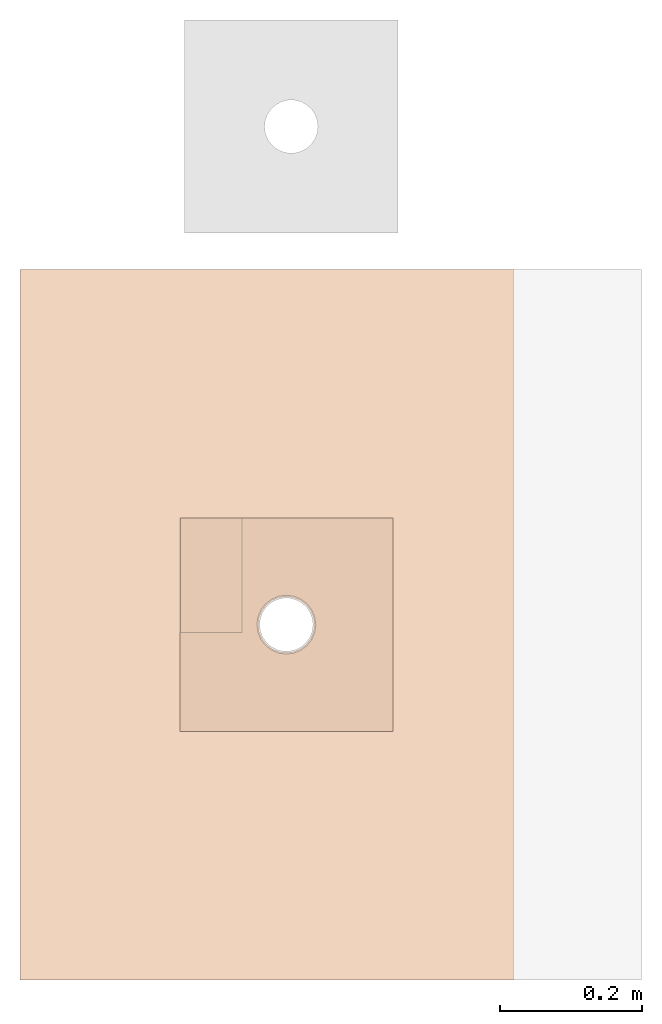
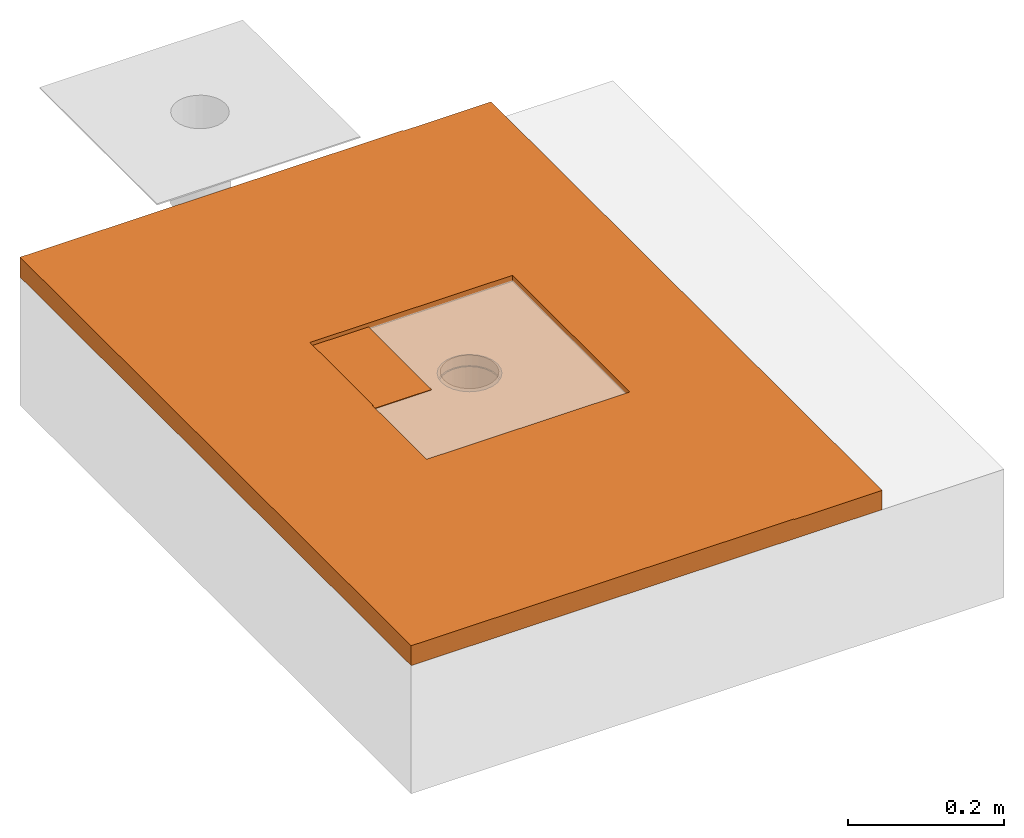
# One storey, part 3 of 3: 1 proxy.
"""IFC2X3 building model written with IfcOpenShell, lengths in metres."""

from ifc_helpers import new_model, entity, si_unit, converted_unit, derived_unit, direction, frame, origin, place, context, subcontext, project, spatial, faceted_brep, source, transform, mapped, material, material_list, type_object, type_shapes, element, save


model = new_model("IFC2X3")

# Units and contexts
model_context = context("Model", 3, precision=1e-05, world=origin(), true_north=direction((6.123031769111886e-17, 1.0)))
body_context = subcontext(model_context, "Body", "Model", "MODEL_VIEW")
ifc_project = project(units=[si_unit("LENGTHUNIT", "METRE"), si_unit("AREAUNIT", "SQUARE_METRE"), si_unit("VOLUMEUNIT", "CUBIC_METRE"), converted_unit("PLANEANGLEUNIT", "DEGREE", entity("IfcRatioMeasure", 0.017453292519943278), si_unit("PLANEANGLEUNIT", "RADIAN"), dimensions=[0, 0, 0, 0, 0, 0, 0]), si_unit("MASSUNIT", "GRAM", prefix="KILO"), derived_unit("MASSDENSITYUNIT", [(si_unit("MASSUNIT", "GRAM", prefix="KILO"), 1), (si_unit("LENGTHUNIT", "METRE"), -3)]), derived_unit("IONCONCENTRATIONUNIT", [(si_unit("MASSUNIT", "GRAM", prefix="KILO"), 1), (si_unit("LENGTHUNIT", "METRE"), -3)]), derived_unit("MOMENTOFINERTIAUNIT", [(si_unit("LENGTHUNIT", "METRE"), 4)]), si_unit("TIMEUNIT", "SECOND"), si_unit("FREQUENCYUNIT", "HERTZ"), si_unit("THERMODYNAMICTEMPERATUREUNIT", "DEGREE_CELSIUS"), derived_unit("THERMALTRANSMITTANCEUNIT", [(si_unit("MASSUNIT", "GRAM", prefix="KILO"), 1), (si_unit("THERMODYNAMICTEMPERATUREUNIT", "KELVIN"), -1), (si_unit("TIMEUNIT", "SECOND"), -3)]), derived_unit("THERMALCONDUCTANCEUNIT", [(si_unit("MASSUNIT", "GRAM", prefix="KILO"), 1), (si_unit("THERMODYNAMICTEMPERATUREUNIT", "KELVIN"), -1), (si_unit("TIMEUNIT", "SECOND"), -3), (si_unit("LENGTHUNIT", "METRE"), 1)]), derived_unit("VOLUMETRICFLOWRATEUNIT", [(si_unit("LENGTHUNIT", "METRE"), 3), (si_unit("TIMEUNIT", "SECOND"), -1)]), derived_unit("MASSFLOWRATEUNIT", [(si_unit("MASSUNIT", "GRAM", prefix="KILO"), 1), (si_unit("TIMEUNIT", "SECOND"), -1)]), derived_unit("ROTATIONALFREQUENCYUNIT", [(si_unit("TIMEUNIT", "SECOND"), -1)]), si_unit("ELECTRICCURRENTUNIT", "AMPERE"), si_unit("ELECTRICVOLTAGEUNIT", "VOLT"), si_unit("POWERUNIT", "WATT"), si_unit("FORCEUNIT", "NEWTON", prefix="KILO"), si_unit("ILLUMINANCEUNIT", "LUX"), si_unit("LUMINOUSFLUXUNIT", "LUMEN"), si_unit("LUMINOUSINTENSITYUNIT", "CANDELA"), derived_unit("USERDEFINED", [(si_unit("MASSUNIT", "GRAM", prefix="KILO"), -1), (si_unit("LENGTHUNIT", "METRE"), -2), (si_unit("TIMEUNIT", "SECOND"), 3), (si_unit("LUMINOUSFLUXUNIT", "LUMEN"), 1)]), derived_unit("USERDEFINED", [(si_unit("MASSUNIT", "GRAM", prefix="KILO"), 1), (si_unit("TIMEUNIT", "SECOND"), -3), (si_unit("LENGTHUNIT", "METRE"), 3), (si_unit("ELECTRICCURRENTUNIT", "AMPERE"), -2)]), derived_unit("SOUNDPOWERUNIT", [(si_unit("MASSUNIT", "GRAM", prefix="KILO"), 1), (si_unit("TIMEUNIT", "SECOND"), -3), (si_unit("LENGTHUNIT", "METRE"), 2)]), derived_unit("SOUNDPRESSUREUNIT", [(si_unit("MASSUNIT", "GRAM", prefix="KILO"), 1), (si_unit("LENGTHUNIT", "METRE"), -1), (si_unit("TIMEUNIT", "SECOND"), -2)]), derived_unit("LINEARVELOCITYUNIT", [(si_unit("LENGTHUNIT", "METRE"), 1), (si_unit("TIMEUNIT", "SECOND"), -1)]), si_unit("PRESSUREUNIT", "PASCAL"), derived_unit("USERDEFINED", [(si_unit("MASSUNIT", "GRAM", prefix="KILO"), 1), (si_unit("LENGTHUNIT", "METRE"), -2), (si_unit("TIMEUNIT", "SECOND"), -2)]), derived_unit("LINEARFORCEUNIT", [(si_unit("MASSUNIT", "GRAM", prefix="KILO"), 1), (si_unit("TIMEUNIT", "SECOND"), -2)]), derived_unit("PLANARFORCEUNIT", [(si_unit("MASSUNIT", "GRAM", prefix="KILO"), 1), (si_unit("LENGTHUNIT", "METRE"), -1), (si_unit("TIMEUNIT", "SECOND"), -2)]), derived_unit("SPECIFICHEATCAPACITYUNIT", [(si_unit("THERMODYNAMICTEMPERATUREUNIT", "KELVIN"), -1), (si_unit("LENGTHUNIT", "METRE"), 2), (si_unit("TIMEUNIT", "SECOND"), -2)]), derived_unit("HEATINGVALUEUNIT", [(si_unit("LENGTHUNIT", "METRE"), 2), (si_unit("TIMEUNIT", "SECOND"), -2)]), derived_unit("VAPORPERMEABILITYUNIT", [(si_unit("LENGTHUNIT", "METRE"), -1), (si_unit("TIMEUNIT", "SECOND"), 1)]), derived_unit("DYNAMICVISCOSITYUNIT", [(si_unit("MASSUNIT", "GRAM", prefix="KILO"), 1), (si_unit("TIMEUNIT", "SECOND"), -1), (si_unit("LENGTHUNIT", "METRE"), -1)]), derived_unit("THERMALEXPANSIONCOEFFICIENTUNIT", [(si_unit("THERMODYNAMICTEMPERATUREUNIT", "KELVIN"), -1)]), derived_unit("MODULUSOFELASTICITYUNIT", [(si_unit("MASSUNIT", "GRAM", prefix="KILO"), 1), (si_unit("LENGTHUNIT", "METRE"), -1), (si_unit("TIMEUNIT", "SECOND"), -2)]), derived_unit("ISOTHERMALMOISTURECAPACITYUNIT", [(si_unit("LENGTHUNIT", "METRE"), 3), (si_unit("MASSUNIT", "GRAM", prefix="KILO"), -1)]), derived_unit("MOISTUREDIFFUSIVITYUNIT", [(si_unit("TIMEUNIT", "SECOND"), -1), (si_unit("LENGTHUNIT", "METRE"), 2)])], contexts=[model_context])

# Site, building, storey
site_placement = place(None, origin())
site = spatial("IfcSite", under=ifc_project, at=site_placement, Name="Default", CompositionType="ELEMENT")
building_placement = place(site_placement, origin())
building = spatial("IfcBuilding", under=site, at=building_placement, CompositionType="ELEMENT")
storey_placement = place(building_placement, frame((0.0, 0.0, -0.0025237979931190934)))
storey = spatial("IfcBuildingStorey", under=building, at=storey_placement, Name="ARQ Térreo", CompositionType="ELEMENT", Elevation=-0.0025237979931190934)

# Proxy
ifc_material_1 = material(Name="#Impermeabilização")
ifc_material_2 = material(Name="Plástico")
ifc_material_3 = material(Name="#argamassa")
ifc_material_list = material_list([ifc_material_1, ifc_material_2, ifc_material_3])
building_element_proxy_type = type_object("IfcBuildingElementProxyType", Name="IMPER:IMPER", PredefinedType="NOTDEFINED", material=ifc_material_list)
shared_shape = source(origin(), body_context, "Body", "Brep", [
    faceted_brep([(0.2258540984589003, 0.48897795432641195, 0.3694349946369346), (0.22485409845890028, 0.48897795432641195, 0.3694349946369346), (0.22485409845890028, 0.48897795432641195, 0.3624128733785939), (0.31235992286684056, 0.48897795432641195, 0.3624128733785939), (0.31235992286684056, 0.48897795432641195, 0.36341287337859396), (0.2258540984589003, 0.48897795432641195, 0.36341287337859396), (0.2258540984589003, 0.6500658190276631, 0.3694349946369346), (0.2258540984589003, 0.6500658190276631, 0.36341287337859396), (0.31235992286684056, 0.6500658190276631, 0.36341287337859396), (0.31235992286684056, 0.6500658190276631, 0.3624128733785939), (0.22485409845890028, 0.6500658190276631, 0.3624128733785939), (0.22485409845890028, 0.6500658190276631, 0.3694349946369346)], [[[0, 1, 2, 3, 4, 5]], [[6, 7, 8, 9, 10, 11]], [[1, 0, 6, 11]], [[2, 1, 11, 10]], [[3, 2, 10, 9]], [[4, 3, 9, 8]], [[5, 4, 8, 7]], [[0, 5, 7, 6]]]),
    faceted_brep([(0.35410409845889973, 0.5360058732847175, 0.34300510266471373), (0.3455091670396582, 0.529410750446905, 0.34300510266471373), (0.3551040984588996, 0.5342738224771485, 0.34300510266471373), (0.36463074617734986, 0.5382198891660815, 0.34300510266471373), (0.36411310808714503, 0.5401517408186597, 0.34300510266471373), (0.34692338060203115, 0.5279965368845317, 0.34300510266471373), (0.3389140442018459, 0.5208158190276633, 0.34300510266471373), (0.3406460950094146, 0.519815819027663, 0.34300510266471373), (0.33670002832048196, 0.5102891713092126, 0.34300510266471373), (0.3347681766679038, 0.5108068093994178, 0.34300510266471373), (0.33535409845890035, 0.5000658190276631, 0.34300510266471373), (0.33335409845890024, 0.5000658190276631, 0.34300510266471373), (0.33670002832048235, 0.48984246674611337, 0.34300510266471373), (0.3347681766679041, 0.4893248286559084, 0.34300510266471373), (0.3406460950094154, 0.48031581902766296, 0.34300510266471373), (0.33891404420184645, 0.47931581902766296, 0.34300510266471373), (0.34692338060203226, 0.4721351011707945, 0.34300510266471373), (0.34550916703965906, 0.47072088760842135, 0.34300510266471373), (0.3551040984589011, 0.46585781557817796, 0.34300510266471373), (0.35410409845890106, 0.464125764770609, 0.34300510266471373), (0.36463074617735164, 0.461911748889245, 0.34300510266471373), (0.36411310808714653, 0.45997989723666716, 0.34300510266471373), (0.3748540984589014, 0.4605658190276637, 0.34300510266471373), (0.3748540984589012, 0.4585658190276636, 0.34300510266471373), (0.38507745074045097, 0.46191174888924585, 0.34300510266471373), (0.38559508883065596, 0.4599798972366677, 0.34300510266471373), (0.3946040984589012, 0.46585781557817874, 0.34300510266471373), (0.39560409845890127, 0.46412576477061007, 0.34300510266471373), (0.40278481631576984, 0.4721351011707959, 0.34300510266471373), (0.4041990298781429, 0.4707208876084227, 0.34300510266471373), (0.40906210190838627, 0.4803158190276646, 0.34300510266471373), (0.4107941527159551, 0.47931581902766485, 0.34300510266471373), (0.4149400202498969, 0.48932482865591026, 0.34300510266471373), (0.41300816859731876, 0.48984246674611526, 0.34300510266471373), (0.4163540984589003, 0.500065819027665, 0.34300510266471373), (0.41435409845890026, 0.500065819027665, 0.34300510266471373), (0.41494002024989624, 0.5108068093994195, 0.34300510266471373), (0.4130081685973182, 0.5102891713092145, 0.34300510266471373), (0.4107941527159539, 0.5208158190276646, 0.34300510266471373), (0.40906210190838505, 0.5198158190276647, 0.34300510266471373), (0.40419902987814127, 0.5294107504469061, 0.34300510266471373), (0.40278481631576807, 0.5279965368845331, 0.34300510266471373), (0.3956040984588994, 0.5360058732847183, 0.34300510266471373), (0.3946040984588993, 0.5342738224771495, 0.34300510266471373), (0.3855950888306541, 0.5401517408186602, 0.34300510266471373), (0.3850774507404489, 0.5382198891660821, 0.34300510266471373), (0.3748540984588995, 0.5415658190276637, 0.34300510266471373), (0.37485409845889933, 0.5395658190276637, 0.34300510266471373), (0.35410409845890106, 0.464125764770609, 0.0), (0.34550916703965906, 0.47072088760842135, 0.0), (0.3551040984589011, 0.46585781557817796, 0.0), (0.36463074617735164, 0.461911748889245, 0.0), (0.36411310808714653, 0.45997989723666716, 0.0), (0.34692338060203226, 0.4721351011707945, 0.0), (0.33891404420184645, 0.47931581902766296, 0.0), (0.3406460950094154, 0.48031581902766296, 0.0), (0.33670002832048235, 0.48984246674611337, 0.0), (0.3347681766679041, 0.4893248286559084, 0.0), (0.33535409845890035, 0.5000658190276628, 0.0), (0.33335409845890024, 0.5000658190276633, 0.0), (0.33670002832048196, 0.5102891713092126, 0.0), (0.3347681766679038, 0.5108068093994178, 0.0), (0.3406460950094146, 0.519815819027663, 0.0), (0.3389140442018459, 0.5208158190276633, 0.0), (0.34692338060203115, 0.5279965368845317, 0.0), (0.3455091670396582, 0.529410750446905, 0.0), (0.3551040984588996, 0.5342738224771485, 0.0), (0.35410409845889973, 0.5360058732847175, 0.0), (0.36463074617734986, 0.5382198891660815, 0.0), (0.36411310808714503, 0.5401517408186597, 0.0), (0.37485409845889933, 0.5395658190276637, 0.0), (0.3748540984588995, 0.5415658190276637, 0.0), (0.3850774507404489, 0.5382198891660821, 0.0), (0.3855950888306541, 0.5401517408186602, 0.0), (0.3946040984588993, 0.5342738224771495, 0.0), (0.3956040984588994, 0.5360058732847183, 0.0), (0.40278481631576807, 0.5279965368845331, 0.0), (0.40419902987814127, 0.5294107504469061, 0.0), (0.40906210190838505, 0.5198158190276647, 0.0), (0.4107941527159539, 0.5208158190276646, 0.0), (0.41494002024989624, 0.5108068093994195, 0.0), (0.4130081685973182, 0.5102891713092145, 0.0), (0.4163540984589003, 0.500065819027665, 0.0), (0.41435409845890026, 0.500065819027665, 0.0), (0.4149400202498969, 0.48932482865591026, 0.0), (0.41300816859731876, 0.48984246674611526, 0.0), (0.4107941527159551, 0.47931581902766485, 0.0), (0.40906210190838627, 0.4803158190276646, 0.0), (0.4041990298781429, 0.4707208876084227, 0.0), (0.40278481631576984, 0.4721351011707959, 0.0), (0.39560409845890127, 0.46412576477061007, 0.0), (0.3946040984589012, 0.46585781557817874, 0.0), (0.38559508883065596, 0.4599798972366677, 0.0), (0.38507745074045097, 0.46191174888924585, 0.0), (0.3748540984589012, 0.4585658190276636, 0.0), (0.3748540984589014, 0.4605658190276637, 0.0)], [[[0, 1, 2]], [[0, 2, 3]], [[3, 4, 0]], [[2, 1, 5]], [[6, 5, 1]], [[5, 6, 7]], [[7, 6, 8]], [[9, 8, 6]], [[9, 10, 8]], [[10, 9, 11]], [[12, 10, 11]], [[11, 13, 12]], [[12, 13, 14]], [[15, 14, 13]], [[14, 15, 16]], [[16, 15, 17]], [[18, 16, 17]], [[17, 19, 18]], [[18, 19, 20]], [[21, 20, 19]], [[20, 21, 22]], [[22, 21, 23]], [[22, 23, 24]], [[24, 23, 25]], [[24, 25, 26]], [[27, 26, 25]], [[28, 26, 27]], [[28, 27, 29]], [[29, 30, 28]], [[31, 30, 29]], [[30, 31, 32]], [[32, 33, 30]], [[34, 33, 32]], [[34, 35, 33]], [[36, 35, 34]], [[36, 37, 35]], [[37, 36, 38]], [[38, 39, 37]], [[39, 38, 40]], [[39, 40, 41]], [[40, 42, 41]], [[43, 41, 42]], [[43, 42, 44]], [[44, 45, 43]], [[46, 45, 44]], [[4, 47, 46]], [[46, 47, 45]], [[4, 3, 47]], [[48, 49, 50]], [[48, 50, 51]], [[51, 52, 48]], [[50, 49, 53]], [[54, 53, 49]], [[53, 54, 55]], [[55, 54, 56]], [[57, 56, 54]], [[57, 58, 56]], [[58, 57, 59]], [[60, 58, 59]], [[59, 61, 60]], [[60, 61, 62]], [[63, 62, 61]], [[62, 63, 64]], [[64, 63, 65]], [[66, 64, 65]], [[65, 67, 66]], [[66, 67, 68]], [[69, 68, 67]], [[68, 69, 70]], [[70, 69, 71]], [[70, 71, 72]], [[72, 71, 73]], [[72, 73, 74]], [[75, 74, 73]], [[76, 74, 75]], [[76, 75, 77]], [[77, 78, 76]], [[79, 78, 77]], [[78, 79, 80]], [[80, 81, 78]], [[82, 81, 80]], [[82, 83, 81]], [[84, 83, 82]], [[84, 85, 83]], [[85, 84, 86]], [[86, 87, 85]], [[87, 86, 88]], [[87, 88, 89]], [[88, 90, 89]], [[91, 89, 90]], [[91, 90, 92]], [[92, 93, 91]], [[94, 93, 92]], [[52, 95, 94]], [[94, 95, 93]], [[52, 51, 95]], [[33, 35, 83, 85]], [[33, 85, 87, 30]], [[26, 28, 89, 91]], [[89, 28, 30, 87]], [[24, 26, 91, 93]], [[93, 95, 22, 24]], [[18, 20, 51, 50]], [[18, 50, 53, 16]], [[12, 14, 55, 56]], [[55, 14, 16, 53]], [[10, 12, 56, 58]], [[22, 95, 51, 20]], [[8, 10, 58, 60]], [[8, 60, 62, 7]], [[2, 5, 64, 66]], [[64, 5, 7, 62]], [[3, 2, 66, 68]], [[68, 70, 47, 3]], [[43, 45, 72, 74]], [[43, 74, 76, 41]], [[37, 39, 78, 81]], [[78, 39, 41, 76]], [[35, 37, 81, 83]], [[47, 70, 72, 45]], [[38, 36, 80, 79]], [[82, 80, 36, 34]], [[42, 40, 77, 75]], [[79, 77, 40, 38]], [[44, 42, 75, 73]], [[73, 71, 46, 44]], [[0, 4, 69, 67]], [[65, 1, 0, 67]], [[9, 6, 63, 61]], [[65, 63, 6, 1]], [[11, 9, 61, 59]], [[69, 4, 46, 71]], [[13, 11, 59, 57]], [[54, 15, 13, 57]], [[19, 17, 49, 48]], [[54, 49, 17, 15]], [[21, 19, 48, 52]], [[52, 94, 23, 21]], [[27, 25, 92, 90]], [[88, 29, 27, 90]], [[32, 31, 86, 84]], [[88, 86, 31, 29]], [[34, 32, 84, 82]], [[92, 25, 23, 94]]]),
    faceted_brep([(0.0, 1.0, 0.3684093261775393), (0.6952748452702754, 1.0, 0.3684093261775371), (0.6952748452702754, 1.0, 0.3384093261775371), (0.0, 1.0, 0.3384093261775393), (0.0, 0.0, 0.3384093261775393), (0.6952748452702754, 0.0, 0.3384093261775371), (0.6952748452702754, 0.0, 0.3684093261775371), (0.0, 0.0, 0.3684093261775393), (0.22485409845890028, 0.6500658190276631, 0.36840932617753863), (0.22485409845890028, 0.3500658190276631, 0.36840932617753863), (0.5248540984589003, 0.3500658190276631, 0.3684093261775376), (0.5248540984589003, 0.6500658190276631, 0.3684093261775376), (0.3956040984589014, 0.5360058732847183, 0.33840932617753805), (0.3855950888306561, 0.5401517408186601, 0.33840932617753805), (0.40419902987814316, 0.5294107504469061, 0.338409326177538), (0.3748540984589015, 0.5415658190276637, 0.3384093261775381), (0.4107941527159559, 0.5208158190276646, 0.338409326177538), (0.4149400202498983, 0.5108068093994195, 0.338409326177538), (0.4163540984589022, 0.500065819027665, 0.338409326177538), (0.41494002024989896, 0.48932482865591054, 0.338409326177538), (0.4107941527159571, 0.47931581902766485, 0.338409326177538), (0.4041990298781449, 0.47072088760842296, 0.338409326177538), (0.39560409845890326, 0.46412576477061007, 0.33840932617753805), (0.38559508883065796, 0.4599798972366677, 0.33840932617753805), (0.3748540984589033, 0.4585658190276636, 0.3384093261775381), (0.36411310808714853, 0.45997989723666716, 0.3384093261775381), (0.35410409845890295, 0.464125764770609, 0.3384093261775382), (0.34550916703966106, 0.47072088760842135, 0.3384093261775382), (0.33891404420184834, 0.47931581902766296, 0.33840932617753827), (0.334768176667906, 0.4893248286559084, 0.33840932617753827), (0.3333540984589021, 0.5000658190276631, 0.33840932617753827), (0.3641131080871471, 0.5401517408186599, 0.3384093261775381), (0.35410409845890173, 0.5360058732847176, 0.3384093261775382), (0.3455091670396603, 0.5294107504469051, 0.3384093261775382), (0.3389140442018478, 0.5208158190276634, 0.33840932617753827), (0.3347681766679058, 0.5108068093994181, 0.33840932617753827), (0.5248540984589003, 0.6500658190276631, 0.36033930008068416), (0.22485409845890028, 0.6500658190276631, 0.36033930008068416), (0.22485409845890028, 0.3500658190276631, 0.36033930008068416), (0.5248540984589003, 0.3500658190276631, 0.36033930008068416), (0.3347681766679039, 0.5108068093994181, 0.36033930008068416), (0.3389140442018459, 0.5208158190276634, 0.36033930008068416), (0.33335409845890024, 0.5000658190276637, 0.36033930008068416), (0.3455091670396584, 0.5294107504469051, 0.36033930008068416), (0.35410409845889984, 0.5360058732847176, 0.36033930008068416), (0.36411310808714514, 0.5401517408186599, 0.36033930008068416), (0.3748540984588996, 0.5415658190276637, 0.36033930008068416), (0.3855950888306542, 0.5401517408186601, 0.36033930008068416), (0.3956040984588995, 0.5360058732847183, 0.36033930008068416), (0.40419902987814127, 0.5294107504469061, 0.36033930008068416), (0.410794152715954, 0.5208158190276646, 0.36033930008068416), (0.41494002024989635, 0.5108068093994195, 0.36033930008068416), (0.4163540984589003, 0.500065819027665, 0.36033930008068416), (0.4149400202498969, 0.48932482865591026, 0.36033930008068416), (0.4107941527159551, 0.47931581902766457, 0.36033930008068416), (0.4041990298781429, 0.4707208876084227, 0.36033930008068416), (0.39560409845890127, 0.46412576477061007, 0.36033930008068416), (0.3855950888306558, 0.4599798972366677, 0.36033930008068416), (0.3748540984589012, 0.4585658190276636, 0.36033930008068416), (0.36411310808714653, 0.45997989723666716, 0.36033930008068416), (0.35410409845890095, 0.464125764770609, 0.36033930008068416), (0.34550916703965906, 0.47072088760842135, 0.36033930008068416), (0.33891404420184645, 0.47931581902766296, 0.36033930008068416), (0.3347681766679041, 0.4893248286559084, 0.36033930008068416)], [[[0, 1, 2, 3]], [[4, 5, 6, 7]], [[0, 8, 1]], [[8, 0, 9]], [[7, 9, 0]], [[9, 7, 6]], [[10, 6, 1]], [[6, 10, 9]], [[11, 1, 8]], [[1, 11, 10]], [[2, 1, 6, 5]], [[2, 12, 13]], [[12, 2, 14]], [[2, 13, 15]], [[16, 14, 2]], [[17, 16, 2]], [[18, 17, 2]], [[2, 5, 18]], [[15, 3, 2]], [[19, 18, 5]], [[20, 19, 5]], [[21, 20, 5]], [[5, 22, 21]], [[22, 5, 23]], [[24, 23, 5]], [[5, 4, 24]], [[25, 24, 4]], [[26, 25, 4]], [[4, 27, 26]], [[27, 4, 28]], [[29, 28, 4]], [[30, 29, 4]], [[30, 4, 3]], [[3, 15, 31]], [[3, 31, 32]], [[32, 33, 3]], [[33, 34, 3]], [[34, 35, 3]], [[3, 35, 30]], [[0, 3, 4, 7]], [[36, 11, 8, 37]], [[37, 8, 9, 38]], [[38, 9, 10, 39]], [[39, 10, 11, 36]], [[40, 41, 37]], [[42, 40, 37]], [[43, 37, 41]], [[37, 43, 44]], [[37, 44, 45]], [[37, 45, 46]], [[46, 36, 37]], [[36, 46, 47]], [[36, 47, 48]], [[36, 48, 49]], [[49, 50, 36]], [[51, 36, 50]], [[36, 51, 52]], [[52, 39, 36]], [[39, 52, 53]], [[39, 53, 54]], [[54, 55, 39]], [[56, 39, 55]], [[39, 56, 57]], [[39, 57, 58]], [[38, 39, 58]], [[58, 59, 38]], [[38, 59, 60]], [[38, 60, 61]], [[38, 61, 62]], [[62, 63, 38]], [[63, 42, 38]], [[37, 38, 42]], [[18, 52, 51, 17]], [[17, 51, 50, 16]], [[12, 14, 49, 48]], [[49, 14, 16, 50]], [[13, 12, 48, 47]], [[13, 47, 46, 15]], [[31, 45, 44, 32]], [[32, 44, 43, 33]], [[35, 34, 41, 40]], [[41, 34, 33, 43]], [[30, 35, 40, 42]], [[15, 46, 45, 31]], [[62, 28, 29, 63]], [[63, 29, 30, 42]], [[59, 25, 26, 60]], [[60, 26, 27, 61]], [[61, 27, 28, 62]], [[25, 59, 58, 24]], [[23, 57, 56, 22]], [[22, 56, 55, 21]], [[19, 20, 54, 53]], [[54, 20, 21, 55]], [[18, 19, 53, 52]], [[24, 58, 57, 23]]]),
    faceted_brep([(0.5648540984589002, 1.0, 0.36943499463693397), (0.5648540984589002, 1.0, 0.36840932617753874), (0.0, 1.0, 0.36840932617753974), (0.0, 1.0, 0.36943499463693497), (0.5648540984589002, 0.0, 0.36943499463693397), (0.0, 0.0, 0.36943499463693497), (0.0, 0.0, 0.36840932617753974), (0.5648540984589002, 0.0, 0.36840932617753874), (0.22485409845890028, 0.6500658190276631, 0.3694349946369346), (0.5248540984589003, 0.6500658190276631, 0.369434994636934), (0.5248540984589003, 0.3500658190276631, 0.369434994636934), (0.22485409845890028, 0.3500658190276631, 0.3694349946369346), (0.5248540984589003, 0.6500658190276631, 0.3684093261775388), (0.22485409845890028, 0.6500658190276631, 0.36840932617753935), (0.22485409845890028, 0.3500658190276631, 0.36840932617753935), (0.5248540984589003, 0.3500658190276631, 0.3684093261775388)], [[[0, 1, 2, 3]], [[4, 5, 6, 7]], [[0, 3, 5, 4], [8, 9, 10, 11]], [[1, 0, 4, 7]], [[2, 1, 7, 6], [12, 13, 14, 15]], [[3, 2, 6, 5]], [[12, 9, 8, 13]], [[13, 8, 11, 14]], [[14, 11, 10, 15]], [[9, 12, 15, 10]]]),
])
type_shapes(building_element_proxy_type, [shared_shape])
proxy_placement = place(storey_placement, frame((0.5478103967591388, -1.7380570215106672, -0.3384093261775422)))
element("IfcBuildingElementProxy", 1, at=proxy_placement, inside=storey, type_object=building_element_proxy_type, material=ifc_material_list, Name="IMPER:IMPER:IMPER : IMPER:IMPER", ObjectType="IMPER:IMPER:IMPER : IMPER:IMPER", context=body_context, shape_type="MappedRepresentation", body=[
    mapped(shared_shape, transform((0.0, 0.0, 0.0), scale=1.0)),
])

save(model, "model.ifc")
